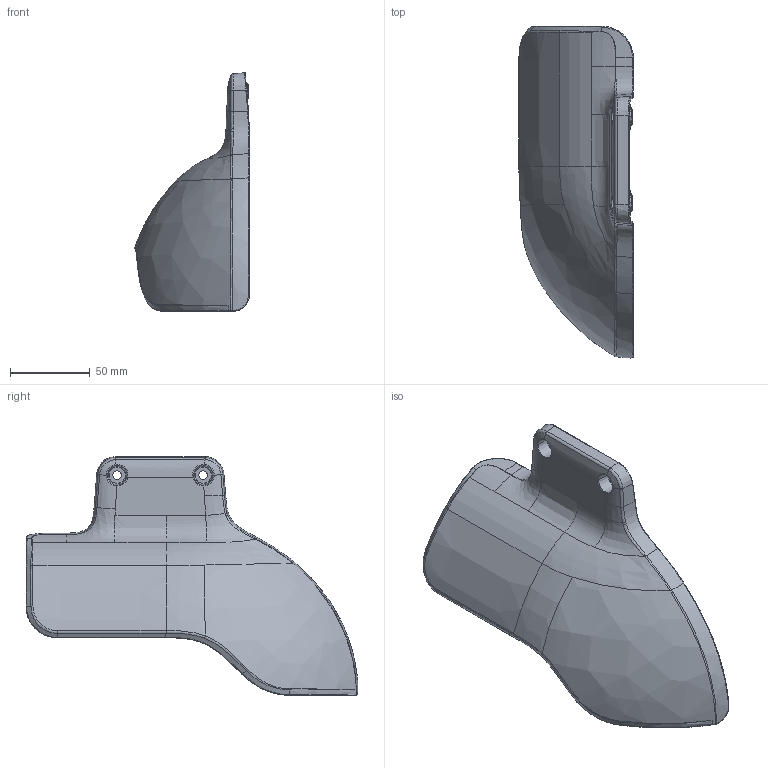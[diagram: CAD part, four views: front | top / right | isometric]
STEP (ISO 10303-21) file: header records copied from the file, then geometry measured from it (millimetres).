
FILE_DESCRIPTION((''),'2;1');
FILE_NAME('YC_SJ_ZS004141_01','2026-03-19T19:12:01',('sean.li'),(''),'CREO PARAMETRIC BY PTC INC, 2022164','CREO PARAMETRIC BY PTC INC, 2022164','');
FILE_SCHEMA(('CONFIG_CONTROL_DESIGN','SHAPE_APPEARANCE_LAYERS_GROUPS'));
Length unit declared in the file: millimetre
Products named in the file (1): YC_SJ_ZS004141_01
Bounding box: 71.61 x 208.25 x 149.73 mm (x, y, z)
Volume: 71854.8 mm3; surface area: 62803.8 mm2
Topology: 1 solids, 1 shells, 548 faces, 1568 edges, 1017 vertices
Faces by surface type: bspline 181, plane 177, cylinder 74, extrusion 43, torus 41, cone 32
Entity records: 33052 total; most frequent: CARTESIAN_POINT 20921, ORIENTED_EDGE 3126, EDGE_CURVE 1563, DIRECTION 1562, VERTEX_POINT 1017, B_SPLINE_CURVE_WITH_KNOTS 958, EDGE_LOOP 552, FACE_OUTER_BOUND 548
